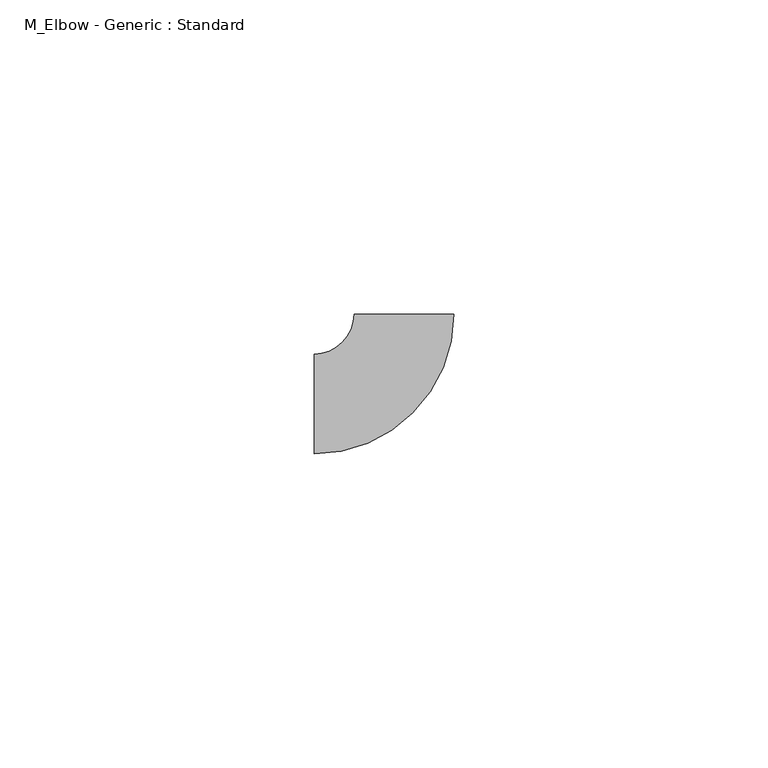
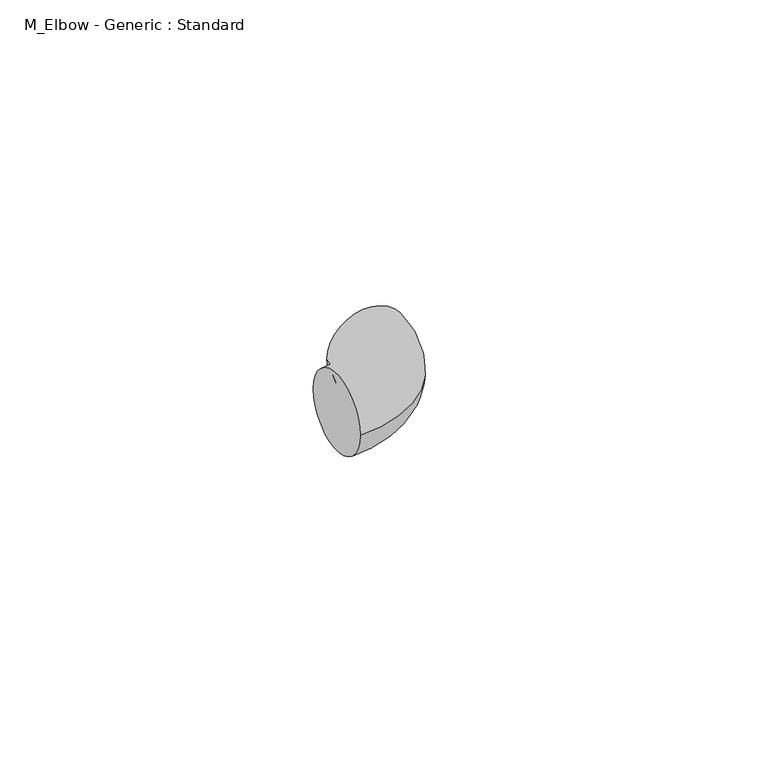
"""IFC4 building model written with IfcOpenShell, lengths in millimetres: pipe fitting geometry, M_Elbow - Generic : Standard."""

import ifcopenshell
import ifcopenshell.guid

model = None  # the IFC model being written
_history = None  # IfcOwnerHistory: only IFC2X3 demands one
_inside = {}  # id of a spatial element -> (the spatial element, [elements in it])
_under = {}  # id of a project, library or spatial element -> (it, [spatial elements below it])
_declared = {}  # id of a project -> (the project, [libraries it declares])
_typed = {}  # id of a type object -> (the type object, [elements of that type])
_made_of = {}  # id of a material, layer set ... -> (it, [elements and type objects made of it])


def new_model(schema):
    """Start an empty IFC model of exactly this schema.

    Asked for "IFC4X3", IfcOpenShell would pick the latest addendum, in which some entities
    have other attributes; the version numbers below select the first issue.
    IFC2X3 requires an IfcOwnerHistory on every rooted entity: one is made here for all.
    """
    global model, _history
    if schema == "IFC4X3":
        model = ifcopenshell.file(schema_version=(4, 3, 0, 0))
    else:
        model = ifcopenshell.file(schema=schema)
    _inside.clear()
    _under.clear()
    _declared.clear()
    _typed.clear()
    _made_of.clear()
    _history = None
    if model.schema == "IFC2X3":
        org = make("IfcOrganization", Name="unknown")
        user = make(
            "IfcPersonAndOrganization",
            ThePerson=make("IfcPerson", FamilyName="unknown"),
            TheOrganization=org,
        )
        app = make(
            "IfcApplication",
            ApplicationDeveloper=org,
            Version="unknown",
            ApplicationFullName="unknown",
            ApplicationIdentifier="unknown",
        )
        _history = make(
            "IfcOwnerHistory",
            OwningUser=user,
            OwningApplication=app,
            ChangeAction="ADDED",
            CreationDate=0,
        )
    return model


def make(cls, **values):
    """One entity of the class cls with the attributes given. An attribute that is None is left unset."""
    return model.create_entity(
        cls, **{name: value for name, value in values.items() if value is not None}
    )


def rooted(cls, **values):
    """An entity with a GlobalId (a new one), such as an element, a storey or a relation."""
    return make(cls, GlobalId=ifcopenshell.guid.new(), OwnerHistory=_history, **values)


def si_unit(unit_type, name, prefix=None):
    """IfcSIUnit, for example si_unit("LENGTHUNIT", "METRE", prefix="MILLI")."""
    return make("IfcSIUnit", UnitType=unit_type, Prefix=prefix, Name=name)


def assignment(units):
    """IfcUnitAssignment: the units of a project."""
    return None if units is None else make("IfcUnitAssignment", Units=units)


def point(xyz):
    """IfcCartesianPoint."""
    return None if xyz is None else make("IfcCartesianPoint", Coordinates=xyz)


def direction(xyz):
    """IfcDirection."""
    return None if xyz is None else make("IfcDirection", DirectionRatios=xyz)


def frame(location, z_axis=None, x_axis=None):
    """IfcAxis2Placement3D, a coordinate frame: its origin and axes. An axis left out is left unset."""
    return make(
        "IfcAxis2Placement3D",
        Location=point(location),
        Axis=direction(z_axis),
        RefDirection=direction(x_axis),
    )


def origin():
    """The frame at (0, 0, 0) with its axes left unset."""
    return frame((0.0, 0.0, 0.0))


def place(relative_to, where):
    """IfcLocalPlacement: puts the frame where relative to a parent placement (None: the world)."""
    return make(
        "IfcLocalPlacement", PlacementRelTo=relative_to, RelativePlacement=where
    )


def context(
    kind, dimensions, precision=None, world=None, true_north=None, identifier=None
):
    """IfcGeometricRepresentationContext, for example the 3D "Model" context."""
    return make(
        "IfcGeometricRepresentationContext",
        ContextIdentifier=identifier,
        ContextType=kind,
        CoordinateSpaceDimension=dimensions,
        Precision=precision,
        WorldCoordinateSystem=world,
        TrueNorth=true_north,
    )


def project(units=None, contexts=None):
    """IfcProject with its units and contexts."""
    return rooted(
        "IfcProject",
        Name="project",
        RepresentationContexts=contexts,
        UnitsInContext=assignment(units),
    )


def spatial(cls, under=None, at=None, **own):
    """A site, building, storey or space (cls), placed at a placement, below another one or the project."""
    s = rooted(cls, ObjectPlacement=at, **own)
    if under is not None:
        _under.setdefault(under.id(), (under, []))[1].append(s)
    return s


def circle_curve(where, radius):
    """IfcCircle in the frame where."""
    return make("IfcCircle", Position=where, Radius=radius)


def ellipse_curve(where, semi_axis1, semi_axis2):
    """IfcEllipse in the frame where."""
    return make(
        "IfcEllipse", Position=where, SemiAxis1=semi_axis1, SemiAxis2=semi_axis2
    )


def trimmed(basis, trim1, trim2, sense, master):
    """IfcTrimmedCurve: the piece of a basis curve between two trims."""
    return make(
        "IfcTrimmedCurve",
        BasisCurve=basis,
        Trim1=trim1,
        Trim2=trim2,
        SenseAgreement=sense,
        MasterRepresentation=master,
    )


def shape(context_of_items, identifier, shape_type, items):
    """IfcShapeRepresentation: the items that make up one representation, for example the "Body"."""
    return make(
        "IfcShapeRepresentation",
        ContextOfItems=context_of_items,
        RepresentationIdentifier=identifier,
        RepresentationType=shape_type,
        Items=items,
    )


def source(mapping_origin, context_of_items, identifier, shape_type, items):
    """IfcRepresentationMap: a shape defined once, which mapped items show again and again."""
    return make(
        "IfcRepresentationMap",
        MappingOrigin=mapping_origin,
        MappedRepresentation=shape(context_of_items, identifier, shape_type, items),
    )


def transform(
    local_origin,
    x_axis=None,
    y_axis=None,
    z_axis=None,
    scale=None,
    scale2=None,
    scale3=None,
    uniform=True,
):
    """IfcCartesianTransformationOperator3D, or its non-uniform kind. x_axis, y_axis, z_axis: its Axis1, 2, 3."""
    if uniform:
        return make(
            "IfcCartesianTransformationOperator3D",
            Axis1=direction(x_axis),
            Axis2=direction(y_axis),
            LocalOrigin=point(local_origin),
            Scale=scale,
            Axis3=direction(z_axis),
        )
    return make(
        "IfcCartesianTransformationOperator3DnonUniform",
        Axis1=direction(x_axis),
        Axis2=direction(y_axis),
        LocalOrigin=point(local_origin),
        Scale=scale,
        Axis3=direction(z_axis),
        Scale2=scale2,
        Scale3=scale3,
    )


def mapped(mapping_source, mapping_target):
    """IfcMappedItem: shows the shape of a source again, moved by a transform."""
    return make(
        "IfcMappedItem", MappingSource=mapping_source, MappingTarget=mapping_target
    )


def made_of(thing, what):
    """Note that an element or type object is made of a material, layer set ...; save() writes the relation."""
    if what is not None:
        _made_of.setdefault(what.id(), (what, []))[1].append(thing)
    return thing


def element(
    cls,
    number,
    at=None,
    inside=None,
    cuts=None,
    type_object=None,
    material=None,
    context=None,
    identifier="Body",
    shape_type=None,
    held_by="IfcProductDefinitionShape",
    body=None,
    shapes=None,
    **own,
):
    """One element of the class cls, such as IfcWall. Its Tag is "e" and its number.

    at: its placement. inside: the storey or other place that contains it. cuts: it is an
    opening in that element (IfcRelVoidsElement). A single representation is given by context,
    identifier, shape_type and body (its items); several are given by shapes. held_by: the class
    of the entity that holds the representations. save() writes the other relations.
    """
    e = rooted(cls, Tag="e%d" % number, ObjectPlacement=at, **own)
    if body is not None:
        shapes = [shape(context, identifier, shape_type, body)]
    if shapes is not None:
        e.Representation = make(held_by, Representations=shapes)
    if inside is not None:
        _inside.setdefault(inside.id(), (inside, []))[1].append(e)
    if cuts is not None:
        rooted(
            "IfcRelVoidsElement", RelatingBuildingElement=cuts, RelatedOpeningElement=e
        )
    if type_object is not None:
        _typed.setdefault(type_object.id(), (type_object, []))[1].append(e)
    return made_of(e, material)


def aggregate(whole, parts):
    """IfcRelAggregates: a whole, such as a stair, and the parts it consists of."""
    return rooted("IfcRelAggregates", RelatingObject=whole, RelatedObjects=parts)


def save(model, path):
    """Write the relations noted so far, then the file.

    IfcRelAggregates (storeys below a building ...), IfcRelContainedInSpatialStructure (elements
    in a storey), IfcRelDefinesByType, IfcRelAssociatesMaterial and IfcRelDeclares: one each for
    every whole, place, type object, material and project.
    """
    for whole, parts in _under.values():
        aggregate(whole, parts)
    for where, things in _inside.values():
        rooted(
            "IfcRelContainedInSpatialStructure",
            RelatedElements=things,
            RelatingStructure=where,
        )
    for kind, things in _typed.values():
        rooted("IfcRelDefinesByType", RelatedObjects=things, RelatingType=kind)
    for what, things in _made_of.values():
        rooted("IfcRelAssociatesMaterial", RelatedObjects=things, RelatingMaterial=what)
    for by, libraries in _declared.values():
        rooted("IfcRelDeclares", RelatingContext=by, RelatedDefinitions=libraries)
    model.write(path)


def plane_surface(at):
    """IfcPlane: the flat surface through the origin of the frame at, square to its z axis."""
    return make("IfcPlane", Position=at)


def revolved_surface(curve, axis_point, axis_direction):
    """IfcSurfaceOfRevolution: the curve turned about the line through axis_point along axis_direction."""
    return make(
        "IfcSurfaceOfRevolution",
        SweptCurve=make("IfcArbitraryOpenProfileDef", ProfileType="CURVE", Curve=curve),
        AxisPosition=make("IfcAxis1Placement", Location=point(axis_point), Axis=direction(axis_direction)),
    )


def advanced_brep(points, edges, surfaces, faces):
    """IfcAdvancedBrep: a solid bounded by faces that lie on surfaces and meet in shared edges.

    An edge is (start, end): straight between two places in points (the first is 0);
    or (start, end, curve); or (start, end, curve, False) where it runs against its curve.
    A face is (place in surfaces, loops), or (place, loops, False) where it looks against
    its surface's normal. A loop lists edges by number (the first is 1), with a minus sign
    where the edge is run from its end to its start. The first loop is the outer one.
    """
    corners = [point(p) for p in points]
    vertices = [make("IfcVertexPoint", VertexGeometry=c) for c in corners]
    made = []
    for start, end, *more in edges:
        made.append(
            make(
                "IfcEdgeCurve",
                EdgeStart=vertices[start],
                EdgeEnd=vertices[end],
                EdgeGeometry=more[0] if more else make("IfcPolyline", Points=[corners[start], corners[end]]),
                SameSense=more[1] if len(more) > 1 else True,
            )
        )
    hull = []
    for where, loops, *sense in faces:
        bounds = []
        for j, loop in enumerate(loops):
            ring = [make("IfcOrientedEdge", EdgeElement=made[abs(k) - 1], Orientation=k > 0) for k in loop]
            bounds.append(
                make(
                    "IfcFaceOuterBound" if j == 0 else "IfcFaceBound",
                    Bound=make("IfcEdgeLoop", EdgeList=ring),
                    Orientation=True,
                )
            )
        hull.append(make("IfcAdvancedFace", Bounds=bounds, FaceSurface=surfaces[where], SameSense=sense[0] if sense else True))
    return make("IfcAdvancedBrep", Outer=make("IfcClosedShell", CfsFaces=hull))


def m_elbow_generic_standard_a088f956(model_context):
    return source(origin(), model_context, "Body", "AdvancedBrep", [
        advanced_brep(
        [(-14.2875, -7.9375, 0.0), (-14.2875, 7.9375, 0.0), (7.9375, 14.2875, 0.0), (-7.9375, 14.2875, 0.0)],
        [
            (0, 1, circle_curve(frame((-14.2875, 0.0, 0.0), z_axis=(-1.0, 0.0, 0.0), x_axis=(0.0, 1.0, 0.0)), 7.9375)),
            (1, 0, circle_curve(frame((-14.2875, 0.0, 0.0), z_axis=(-1.0, 0.0, 0.0), x_axis=(0.0, 1.0, 0.0)), 7.9375)),
            (2, 3, circle_curve(frame((0.0, 14.2875, 0.0), z_axis=(0.0, 1.0, 0.0), x_axis=(-1.0, 0.0, 0.0)), 7.9375)),
            (3, 2, circle_curve(frame((0.0, 14.2875, 0.0), z_axis=(0.0, 1.0, 0.0), x_axis=(-1.0, 0.0, 0.0)), 7.9375)),
            (3, 1, circle_curve(frame((-14.2875, 14.2875, 0.0), z_axis=(0.0, 0.0, -1.0), x_axis=(0.0, -1.0, 0.0)), 6.35)),
            (0, 2, circle_curve(frame((-14.2875, 14.2875, 0.0), z_axis=(0.0, 0.0, 1.0), x_axis=(0.0, -1.0, 0.0)), 22.225)),
        ],
        [
            plane_surface(frame((-14.2875, 0.0, 0.0), z_axis=(-1.0, 0.0, 0.0), x_axis=(0.0, 0.0, 1.0))),
            plane_surface(frame((0.0, 14.2875, 0.0), z_axis=(0.0, 1.0, 0.0), x_axis=(0.0, 0.0, 1.0))),
            revolved_surface(trimmed(ellipse_curve(frame((-14.2875, 0.0, 0.0), z_axis=(-1.0, 0.0, 0.0), x_axis=(0.0, 1.0, 0.0)), 7.9375, 7.9375), [point((-14.2875, -7.9375, 0.0))], [point((-14.2875, 7.9375, 0.0))], True, "CARTESIAN"), (-14.2875, 14.2875, 0.0), (0.0, 0.0, 1.0)),
            revolved_surface(trimmed(ellipse_curve(frame((-14.2875, 0.0, 0.0), z_axis=(-1.0, 0.0, 0.0), x_axis=(0.0, 1.0, 0.0)), 7.9375, 7.9375), [point((-14.2875, 7.9375, 0.0))], [point((-14.2875, -7.9375, 0.0))], True, "CARTESIAN"), (-14.2875, 14.2875, 0.0), (0.0, 0.0, 1.0)),
        ],
        [
            (0, [[1, 2]]),
            (1, [[3, 4]]),
            (2, [[5, -1, 6, -4]]),
            (3, [[-6, -2, -5, -3]]),
        ],
    ),
    ])


if __name__ == "__main__":
    model = new_model("IFC4")
    model_context = context("Model", 3, world=origin())
    ifc_project = project(units=[si_unit("LENGTHUNIT", "METRE", prefix="MILLI")], contexts=[model_context])
    site = spatial("IfcSite", under=ifc_project)
    building = spatial("IfcBuilding", under=site)
    placement = place(None, origin())
    m_elbow_generic_standard_shape = m_elbow_generic_standard_a088f956(model_context)
    element("IfcPipeFitting", 1, ObjectType="M_Elbow - Generic : Standard", at=placement, inside=building, context=model_context, shape_type="MappedRepresentation", body=[
        mapped(m_elbow_generic_standard_shape, transform((0.0, 0.0, 0.0), x_axis=(1.0, 0.0, 0.0), y_axis=(0.0, 1.0, 0.0), z_axis=(0.0, 0.0, 1.0))),
    ])
    save(model, "model.ifc")
